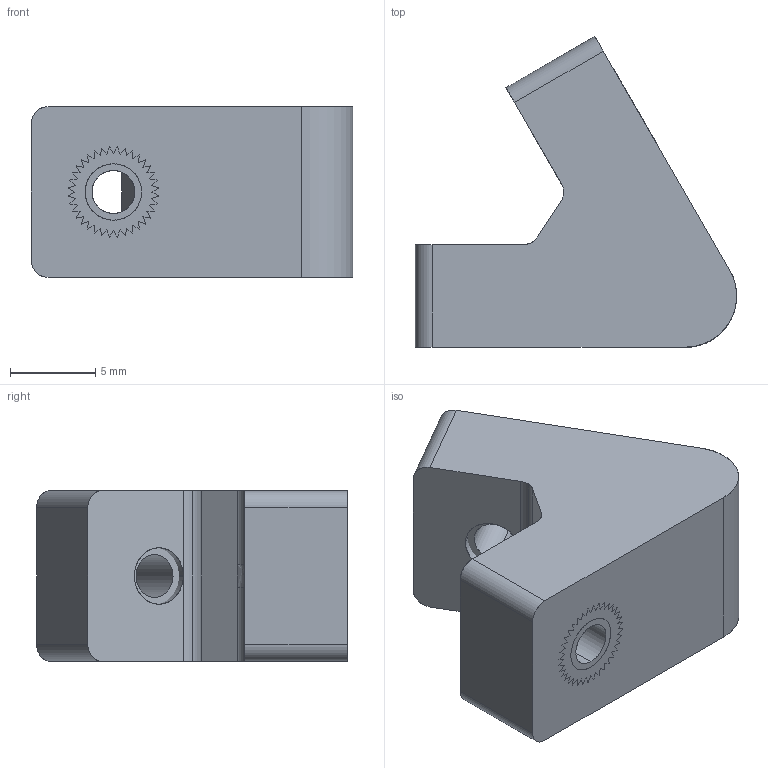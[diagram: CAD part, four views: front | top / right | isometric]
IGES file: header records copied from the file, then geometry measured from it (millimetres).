
Start section: SolidWorks IGES file using analytic representation for surfaces
Global section: file name: C:\Users\tahsi\Desktop\SMD\3D tasarýmlar\Building Set\Parts\1-60° Joint\60° Joint.IGS; native system: SolidWorks 2023; preprocessor: SolidWorks 2023; author: tahsi; date: 240613.165722; units: millimetre
Bounding box: 18.8 x 18.2 x 10 mm (x, y, z)
Surface area: 1569.5 mm2 (no closed solid volume)
Topology: 0 solids, 0 shells, 612 faces, 3373 edges, 3373 vertices
Faces by surface type: bspline 446, revolution 166
